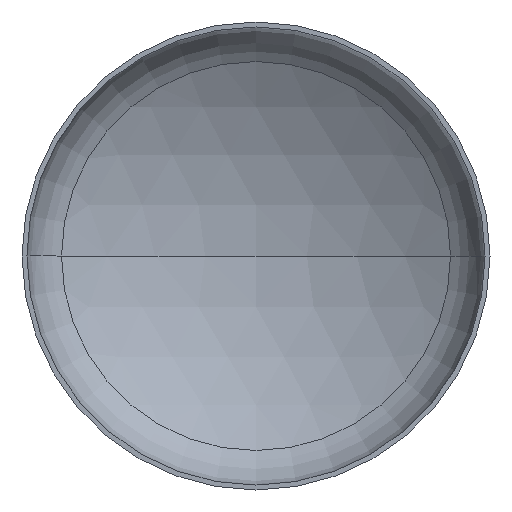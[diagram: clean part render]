
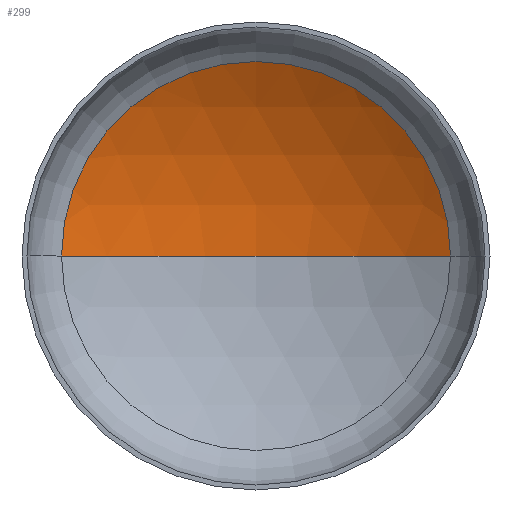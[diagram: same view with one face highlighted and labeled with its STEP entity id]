
A CAD part, front view. The second image highlights one B-rep face of the part: STEP entity #299.
In plain terms, the highlighted spherical face has radius 3200 mm.
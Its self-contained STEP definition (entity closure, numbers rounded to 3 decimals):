
#1 = AXIS2_PLACEMENT_3D ( 'NONE', #157, #154, #138 ) ;
#8 = AXIS2_PLACEMENT_3D ( 'NONE', #94, #230, #310 ) ;
#19 = AXIS2_PLACEMENT_3D ( 'NONE', #292, #146, #92 ) ;
#24 = EDGE_LOOP ( 'NONE', ( #84, #147, #97 ) ) ;
#46 = CIRCLE ( 'NONE', #1, 3200. ) ;
#49 = AXIS2_PLACEMENT_3D ( 'NONE', #218, #396, #227 ) ;
#78 = VERTEX_POINT ( 'NONE', #254 ) ;
#83 = VERTEX_POINT ( 'NONE', #245 ) ;
#84 = ORIENTED_EDGE ( 'NONE', *, *, #369, .F. ) ;
#92 = DIRECTION ( 'NONE',  ( 1., 0., 0. ) ) ;
#94 = CARTESIAN_POINT ( 'NONE',  ( 0., -2078.75, 0. ) ) ;
#95 = VERTEX_POINT ( 'NONE', #253 ) ;
#97 = ORIENTED_EDGE ( 'NONE', *, *, #345, .T. ) ;
#138 = DIRECTION ( 'NONE',  ( -1., 0., 0. ) ) ;
#146 = DIRECTION ( 'NONE',  ( 0., -1., 0. ) ) ;
#147 = ORIENTED_EDGE ( 'NONE', *, *, #377, .T. ) ;
#154 = DIRECTION ( 'NONE',  ( 0., 0., -1. ) ) ;
#157 = CARTESIAN_POINT ( 'NONE',  ( 0., -2078.75, 0. ) ) ;
#198 = CIRCLE ( 'NONE', #8, 3200. ) ;
#218 = CARTESIAN_POINT ( 'NONE',  ( 0., -2078.75, 0. ) ) ;
#227 = DIRECTION ( 'NONE',  ( -1., 0., 0. ) ) ;
#230 = DIRECTION ( 'NONE',  ( 0., 0., 1. ) ) ;
#245 = CARTESIAN_POINT ( 'NONE',  ( 0., 1121.25, 0. ) ) ;
#253 = CARTESIAN_POINT ( 'NONE',  ( -1662.515, 655.486, 0. ) ) ;
#254 = CARTESIAN_POINT ( 'NONE',  ( 1662.515, 655.486, 0. ) ) ;
#292 = CARTESIAN_POINT ( 'NONE',  ( 0., 655.486, 0. ) ) ;
#299 = ADVANCED_FACE ( 'NONE', ( #351 ), #400, .F. ) ;
#310 = DIRECTION ( 'NONE',  ( 1., 0., 0. ) ) ;
#331 = CIRCLE ( 'NONE', #19, 1662.515 ) ;
#345 = EDGE_CURVE ( 'NONE', #78, #95, #331, .T. ) ;
#351 = FACE_OUTER_BOUND ( 'NONE', #24, .T. ) ;
#369 = EDGE_CURVE ( 'NONE', #83, #95, #198, .T. ) ;
#377 = EDGE_CURVE ( 'NONE', #83, #78, #46, .T. ) ;
#396 = DIRECTION ( 'NONE',  ( 0., 0., -1. ) ) ;
#400 = SPHERICAL_SURFACE ( 'NONE', #49, 3200. ) ;
